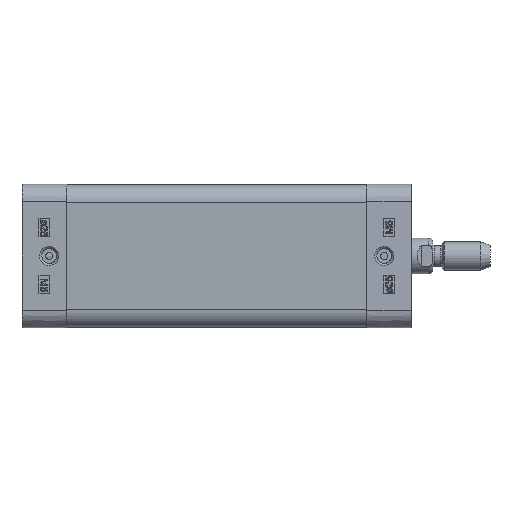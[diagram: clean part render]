
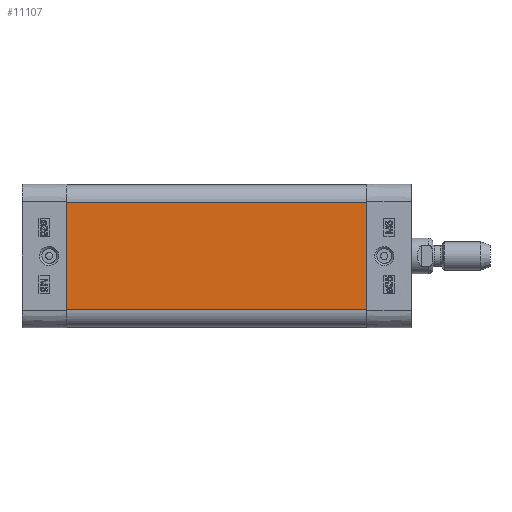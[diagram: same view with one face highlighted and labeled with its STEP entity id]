
A CAD part, left-side view. The second image highlights one B-rep face of the part: STEP entity #11107.
In plain terms, the highlighted planar face has unit normal (-1, 0, 0).
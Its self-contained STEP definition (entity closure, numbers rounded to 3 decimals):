
#8889=CARTESIAN_POINT('',(-20.,-84.0,15.0));
#8890=VERTEX_POINT('',#8889);
#8898=CARTESIAN_POINT('',(-20.,-84.0,-15.));
#8899=VERTEX_POINT('',#8898);
#8900=CARTESIAN_POINT('',(-20.,-84.0,-15.));
#8901=DIRECTION('',(0.0,0.0,1.0));
#8902=VECTOR('',#8901,30.);
#8903=LINE('',#8900,#8902);
#8904=EDGE_CURVE('',#8899,#8890,#8903,.T.);
#10035=CARTESIAN_POINT('',(-20.,0.0,15.0));
#10036=VERTEX_POINT('',#10035);
#10044=CARTESIAN_POINT('',(-20.,0.0,15.0));
#10045=DIRECTION('',(0.0,-1.0,0.0));
#10046=VECTOR('',#10045,84.0);
#10047=LINE('',#10044,#10046);
#10048=EDGE_CURVE('',#10036,#8890,#10047,.T.);
#11072=CARTESIAN_POINT('',(-20.,0.0,-15.));
#11073=VERTEX_POINT('',#11072);
#11074=CARTESIAN_POINT('',(-20.,0.0,-15.));
#11075=DIRECTION('',(0.0,-1.0,0.0));
#11076=VECTOR('',#11075,84.0);
#11077=LINE('',#11074,#11076);
#11078=EDGE_CURVE('',#11073,#8899,#11077,.T.);
#11091=CARTESIAN_POINT('',(-20.,0.0,-15.));
#11092=DIRECTION('',(-1.0,0.0,0.0));
#11093=DIRECTION('',(0.0,0.0,1.0));
#11094=AXIS2_PLACEMENT_3D('',#11091,#11092,#11093);
#11095=PLANE('',#11094);
#11096=ORIENTED_EDGE('',*,*,#8904,.T.);
#11097=ORIENTED_EDGE('',*,*,#10048,.F.);
#11098=CARTESIAN_POINT('',(-20.,0.0,-15.));
#11099=DIRECTION('',(0.0,0.0,1.0));
#11100=VECTOR('',#11099,30.);
#11101=LINE('',#11098,#11100);
#11102=EDGE_CURVE('',#11073,#10036,#11101,.T.);
#11103=ORIENTED_EDGE('',*,*,#11102,.F.);
#11104=ORIENTED_EDGE('',*,*,#11078,.T.);
#11105=EDGE_LOOP('',(#11096,#11097,#11103,#11104));
#11106=FACE_OUTER_BOUND('',#11105,.T.);
#11107=ADVANCED_FACE('',(#11106),#11095,.T.);
